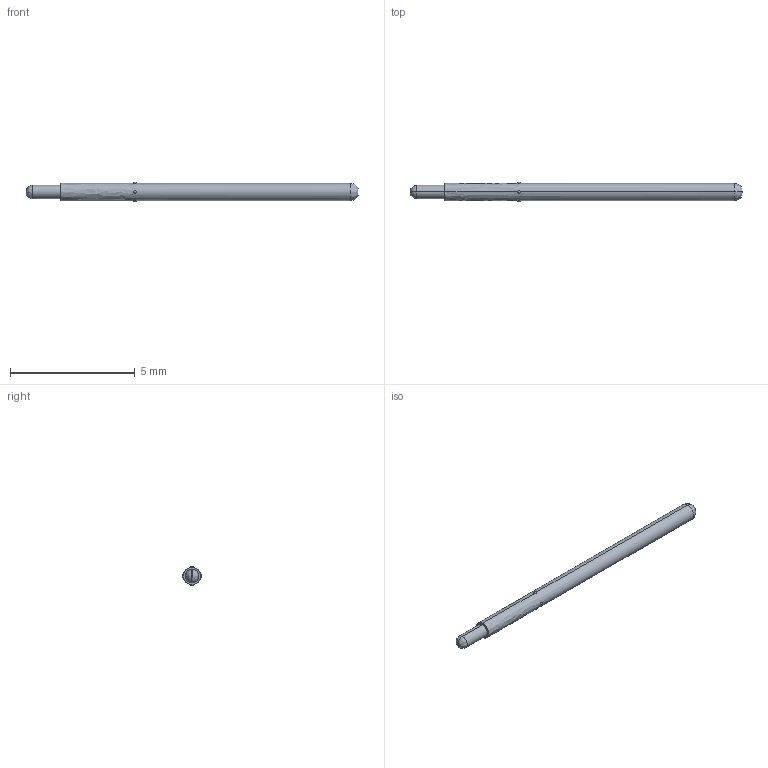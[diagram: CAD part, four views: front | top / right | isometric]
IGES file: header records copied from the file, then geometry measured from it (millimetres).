
Start section: SolidWorks IGES file using analytic representation for surfaces
Global section: file name: O:\PYLON\IGES FILES\P2662B\P2662B-1R1S REC'D.IGS; native system: SolidWorks 2015; preprocessor: SolidWorks 2015; author: kgolden; date: 171019.092422; units: inch
Bounding box: 13.3 x 0.79 x 0.79 mm (x, y, z)
Surface area: 30.8 mm2 (no closed solid volume)
Topology: 0 solids, 0 shells, 21 faces, 192 edges, 176 vertices
Faces by surface type: revolution 14, bspline 7
